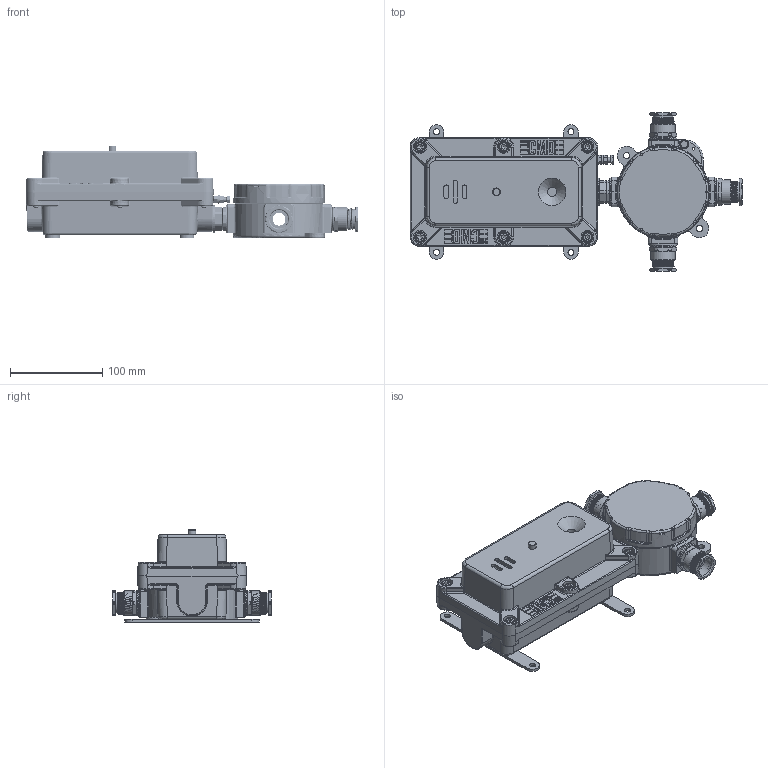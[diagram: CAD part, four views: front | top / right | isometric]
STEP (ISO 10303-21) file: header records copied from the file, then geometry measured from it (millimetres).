
FILE_DESCRIPTION(('STEP AP203'), '1');
FILE_NAME('ÑÌÄ 468626 390 000 _ Ïåðåãîâîðíûé ïîñò ÏÊÂ ÀÂÓ', '', ('UNSPECIFIED'), ('UNSPECIFIED'), 'C3D Converter', 'C3D Toolkit', '');
FILE_SCHEMA(('CONFIG_CONTROL_DESIGN'));
Length unit declared in the file: millimetre
Bounding box: 360.69 x 172.6 x 100 mm (x, y, z)
Volume: 993931.9 mm3; surface area: 269761 mm2
Topology: 3 solids, 4 shells, 2501 faces, 6454 edges, 4012 vertices
Faces by surface type: plane 876, bspline 688, cylinder 560, cone 227, torus 148, sphere 2
Full cylindrical faces by diameter (mm): 2 x3, 2.459 x10, 3 x1, 3.242 x6, 4 x1, 4.134 x4, 5 x1, 5.5 x1, 6 x12, 6.5 x10, 6.6 x6, 6.8 x1, 8.5 x1, 9.2 x4, 10 x9, 12 x7, 14 x12, 14.1 x3, 14.376 x1, 18 x4, 18.376 x7, 18.5 x1, 19.8 x3, 20 x3, 20.2 x4, 22 x3, 22.25 x3, 22.3 x3, 22.5 x3, 26.5 x6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
Entity records: 193889 total; most frequent: CARTESIAN_POINT 120325, ORIENTED_EDGE 12146, DIRECTION 8830, EDGE_CURVE 6073, VERTEX_POINT 3969, AXIS2_PLACEMENT_3D 3169, EDGE_LOOP 2936, FACE_BOUND 2554
